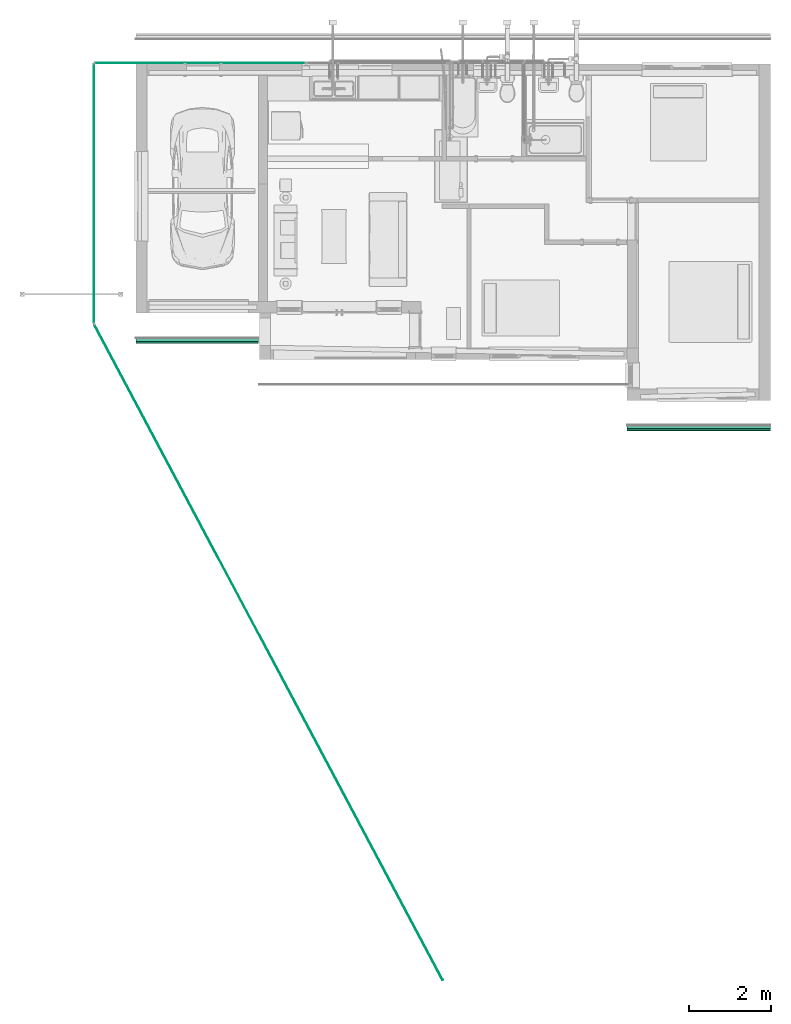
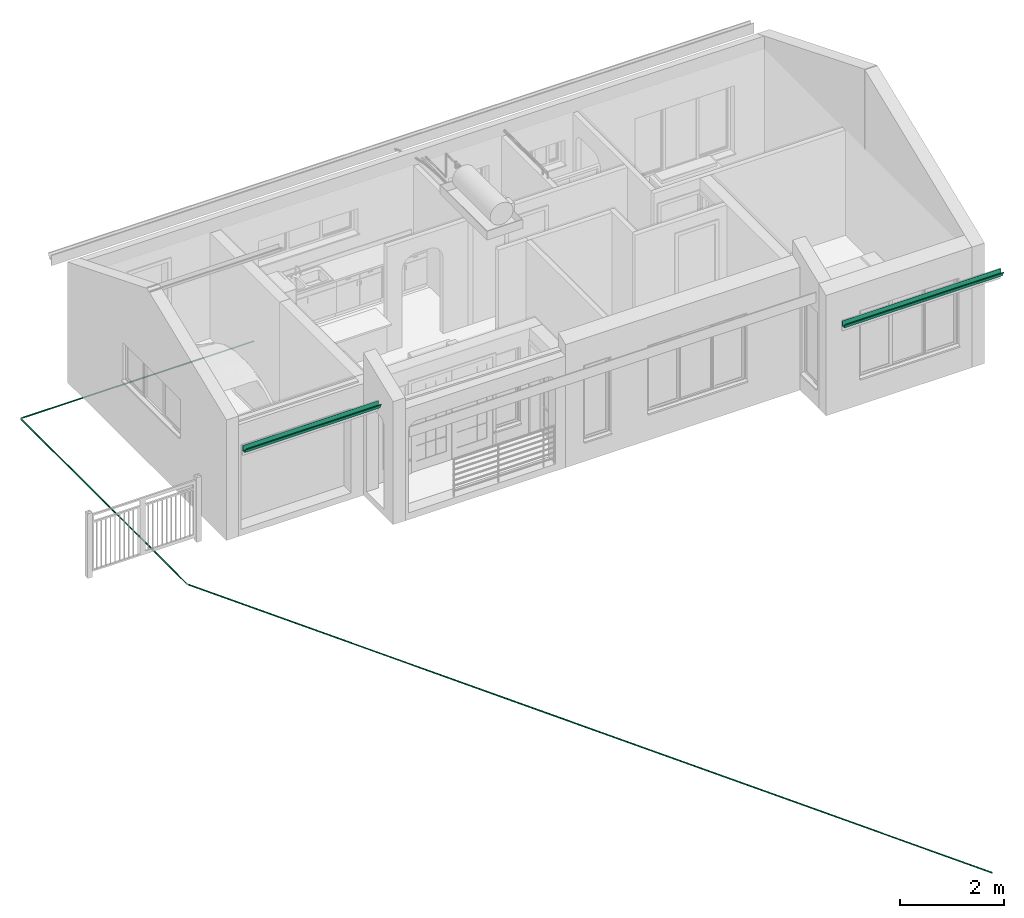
# One storey, part 14 of 41: 5 flow segments.
"""IFC2X3 building model written with IfcOpenShell, lengths in millimetres."""

from ifc_helpers import new_model, entity, si_unit, converted_unit, derived_unit, direction, frame, frame_2d, origin, place, context, subcontext, project, spatial, polyline, circle, outline, extrude, source, transform, mapped, type_object, type_shapes, element, save


model = new_model("IFC2X3")

# Units and contexts
model_context = context("Model", 3, precision=0.01, world=origin(), true_north=direction((6.12303176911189e-17, 1.0)))
body_context = subcontext(model_context, "Body", "Model", "MODEL_VIEW")
ifc_project = project(units=[si_unit("LENGTHUNIT", "METRE", prefix="MILLI"), si_unit("AREAUNIT", "SQUARE_METRE"), si_unit("VOLUMEUNIT", "CUBIC_METRE"), converted_unit("PLANEANGLEUNIT", "DEGREE", entity("IfcRatioMeasure", 0.0174532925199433), si_unit("PLANEANGLEUNIT", "RADIAN"), dimensions=[0, 0, 0, 0, 0, 0, 0]), si_unit("MASSUNIT", "GRAM", prefix="KILO"), derived_unit("MASSDENSITYUNIT", [(si_unit("MASSUNIT", "GRAM", prefix="KILO"), 1), (si_unit("LENGTHUNIT", "METRE"), -3)]), si_unit("TIMEUNIT", "SECOND"), si_unit("FREQUENCYUNIT", "HERTZ"), si_unit("THERMODYNAMICTEMPERATUREUNIT", "DEGREE_CELSIUS"), derived_unit("THERMALTRANSMITTANCEUNIT", [(si_unit("MASSUNIT", "GRAM", prefix="KILO"), 1), (si_unit("THERMODYNAMICTEMPERATUREUNIT", "KELVIN"), -1), (si_unit("TIMEUNIT", "SECOND"), -3)]), derived_unit("VOLUMETRICFLOWRATEUNIT", [(si_unit("LENGTHUNIT", "METRE"), 3), (si_unit("TIMEUNIT", "SECOND"), -1)]), si_unit("ELECTRICCURRENTUNIT", "AMPERE"), si_unit("ELECTRICVOLTAGEUNIT", "VOLT"), si_unit("POWERUNIT", "WATT"), si_unit("FORCEUNIT", "NEWTON", prefix="KILO"), si_unit("ILLUMINANCEUNIT", "LUX"), si_unit("LUMINOUSFLUXUNIT", "LUMEN"), si_unit("LUMINOUSINTENSITYUNIT", "CANDELA"), derived_unit("USERDEFINED", [(si_unit("MASSUNIT", "GRAM", prefix="KILO"), -1), (si_unit("LENGTHUNIT", "METRE"), -2), (si_unit("TIMEUNIT", "SECOND"), 3), (si_unit("LUMINOUSFLUXUNIT", "LUMEN"), 1)]), derived_unit("LINEARVELOCITYUNIT", [(si_unit("LENGTHUNIT", "METRE"), 1), (si_unit("TIMEUNIT", "SECOND"), -1)]), si_unit("PRESSUREUNIT", "PASCAL"), derived_unit("USERDEFINED", [(si_unit("LENGTHUNIT", "METRE"), -2), (si_unit("MASSUNIT", "GRAM", prefix="KILO"), 1), (si_unit("TIMEUNIT", "SECOND"), -2)])], contexts=[model_context])

# Site, building, storey
site_placement = place(None, origin())
site = spatial("IfcSite", under=ifc_project, at=site_placement, Name="Surface", CompositionType="ELEMENT")
building_placement = place(site_placement, origin())
building = spatial("IfcBuilding", under=site, at=building_placement, CompositionType="ELEMENT")
storey_placement = place(building_placement, frame((0.0, 0.0, 300.0)))
storey = spatial("IfcBuildingStorey", under=building, at=storey_placement, Name="F.F.L", CompositionType="ELEMENT", Elevation=300.0)

# Flow segments
pipe_segment_type_1 = type_object("IfcPipeSegmentType", Name="Pipe Types:PVC80", PredefinedType="NOTDEFINED")
flow_segment_1_placement = place(storey_placement, origin())
element("IfcFlowSegment", 1, at=flow_segment_1_placement, inside=storey, type_object=pipe_segment_type_1, Name="Pipe Types:PVC80", ObjectType="Pipe Types:PVC80", context=body_context, shape_type="SweptSolid", body=[
    extrude(circle(Radius=10.668, at=frame_2d((-1.51601398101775e-11, -6.76791955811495e-14), x_axis=(1.0, 0.0))), frame((-13078.0043159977, 10850.8400891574, -650.0), z_axis=(1.0, 0.0, 0.0), x_axis=(0.0, 1.0, 0.0)), (0.0, 0.0, 1.0), 5132.52490000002),
])
flow_segment_2_placement = place(storey_placement, origin())
element("IfcFlowSegment", 2, at=flow_segment_2_placement, inside=storey, type_object=pipe_segment_type_1, Name="Pipe Types:PVC80", ObjectType="Pipe Types:PVC80", context=body_context, shape_type="SweptSolid", body=[
    extrude(circle(Radius=10.668, at=frame_2d((-6.49720277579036e-12, 0.0), x_axis=(1.0, 0.0))), frame((-13111.7418659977, 4477.84028915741, -650.0), z_axis=(0.0, 1.0, 0.0), x_axis=(-1.0, 0.0, 0.0)), (0.0, 0.0, 1.0), 6339.26225000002),
])
flow_segment_3_placement = place(storey_placement, origin())
element("IfcFlowSegment", 3, at=flow_segment_3_placement, inside=storey, type_object=pipe_segment_type_1, Name="Pipe Types:PVC80", ObjectType="Pipe Types:PVC80", context=body_context, shape_type="SweptSolid", body=[
    extrude(circle(Radius=10.668, at=frame_2d((2.54187661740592e-13, -6.76791955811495e-14), x_axis=(1.0, 0.0))), frame((-13099.0660399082, 4427.0003275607, -650.0), z_axis=(0.469471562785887, -0.882947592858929, 0.0), x_axis=(-0.882947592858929, -0.469471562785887, 0.0)), (0.0, 0.0, 1.0), 18172.9998000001),
])
pipe_segment_type_2 = type_object("IfcPipeSegmentType", Name="Gutter:Gutter", PredefinedType="GUTTER")
shared_shape_1 = source(origin(), body_context, "Body", "SweptSolid", [
    extrude(outline(polyline([(-78.7908803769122, -78.0625289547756), (46.1213521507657, -78.0625289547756), (46.1213521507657, -74.8875289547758), (-75.6158803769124, -74.8875289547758), (-75.6158803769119, -6.22482627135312), (23.8963521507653, 31.8751737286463), (23.8963521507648, 43.7624710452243), (30.246352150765, 43.7624710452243), (30.246352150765, 34.2374710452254), (33.4213521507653, 34.2374710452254), (33.4213521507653, 46.9374710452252), (20.721352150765, 46.9374710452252), (20.721352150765, 34.2374710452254), (-78.7908803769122, -3.86252895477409), (-78.7908803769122, -78.0625289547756)])), frame((-12086.8751700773, 4023.0283470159, 2404.56264082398), z_axis=(1.0, 0.0, 0.0), x_axis=(0.0, 0.0, 1.0)), (0.0, 0.0, 1.0), 3000.0),
])
type_shapes(pipe_segment_type_2, [shared_shape_1])
flow_segment_4_placement = place(storey_placement, origin())
element("IfcFlowSegment", 4, at=flow_segment_4_placement, inside=storey, type_object=pipe_segment_type_2, Name="Gutter:Gutter", ObjectType="Gutter:Gutter", context=body_context, shape_type="MappedRepresentation", body=[
    mapped(shared_shape_1, transform((0.0, 0.0, 0.0), scale=1.0)),
])
pipe_segment_type_3 = type_object("IfcPipeSegmentType", Name="Gutter:Gutter", PredefinedType="GUTTER")
shared_shape_2 = source(origin(), body_context, "Body", "SweptSolid", [
    extrude(outline(polyline([(-78.7908803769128, -78.0625289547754), (46.1213521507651, -78.0625289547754), (46.1213521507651, -74.8875289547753), (-75.615880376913, -74.8875289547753), (-75.6158803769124, -6.22482627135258), (23.8963521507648, 31.8751737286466), (23.8963521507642, 43.7624710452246), (30.2463521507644, 43.7624710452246), (30.2463521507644, 34.2374710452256), (33.4213521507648, 34.2374710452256), (33.4213521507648, 46.9374710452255), (20.7213521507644, 46.9374710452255), (20.7213521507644, 34.2374710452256), (-78.7908803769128, -3.86252895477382), (-78.7908803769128, -78.0625289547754)])), frame((-46.8751700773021, 1883.02834701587, 2404.56264082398), z_axis=(1.0, 0.0, 0.0), x_axis=(0.0, 0.0, 1.0)), (0.0, 0.0, 1.0), 3510.0),
])
type_shapes(pipe_segment_type_3, [shared_shape_2])
flow_segment_5_placement = place(storey_placement, origin())
element("IfcFlowSegment", 5, at=flow_segment_5_placement, inside=storey, type_object=pipe_segment_type_3, Name="Gutter:Gutter", ObjectType="Gutter:Gutter", context=body_context, shape_type="MappedRepresentation", body=[
    mapped(shared_shape_2, transform((0.0, 0.0, 0.0), scale=1.0)),
])

save(model, "model.ifc")
